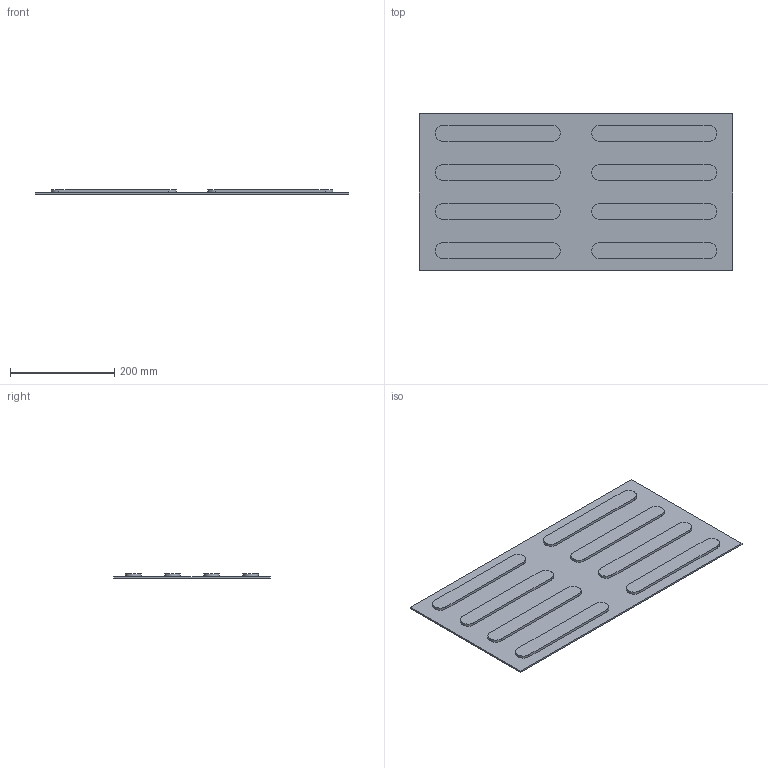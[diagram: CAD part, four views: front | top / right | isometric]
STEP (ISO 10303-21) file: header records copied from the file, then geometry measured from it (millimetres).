
FILE_DESCRIPTION(('FreeCAD Model'),'2;1');
FILE_NAME('Open CASCADE Shape Model','2026-10-04T02:30:16',('FreeCAD'),( 'FreeCAD'),'Open CASCADE STEP processor 7.8','FreeCAD','Unknown');
FILE_SCHEMA(('AUTOMOTIVE_DESIGN { 1 0 10303 214 1 1 1 1 }'));
Length unit declared in the file: millimetre
Products named in the file (1): Open CASCADE STEP translator 7.8 4
Bounding box: 600 x 300 x 8 mm (x, y, z)
Volume: 820274.3 mm3; surface area: 385969.9 mm2
Topology: 1 solids, 1 shells, 46 faces, 124 edges, 88 vertices
Faces by surface type: plane 30, cylinder 16
Entity records: 1494 total; most frequent: DIRECTION 266, CARTESIAN_POINT 259, ORIENTED_EDGE 248, EDGE_CURVE 124, AXIS2_PLACEMENT_3D 95, VERTEX_POINT 88, LINE 76, VECTOR 76
